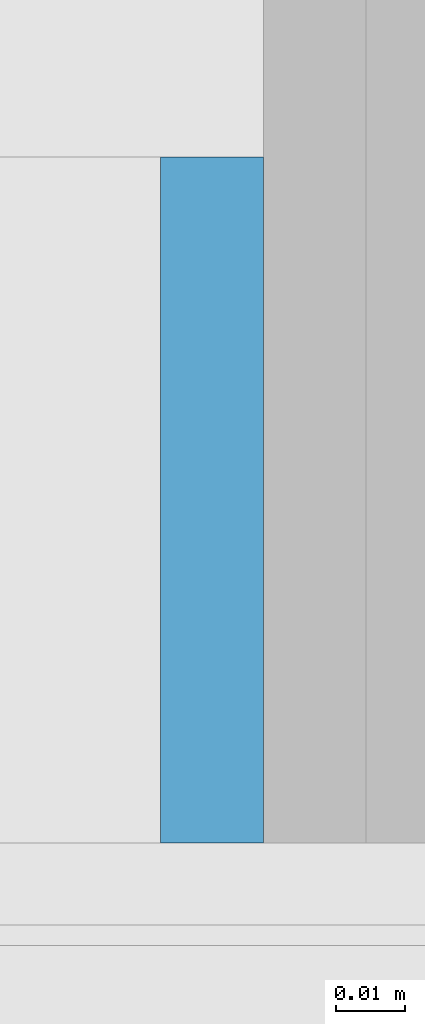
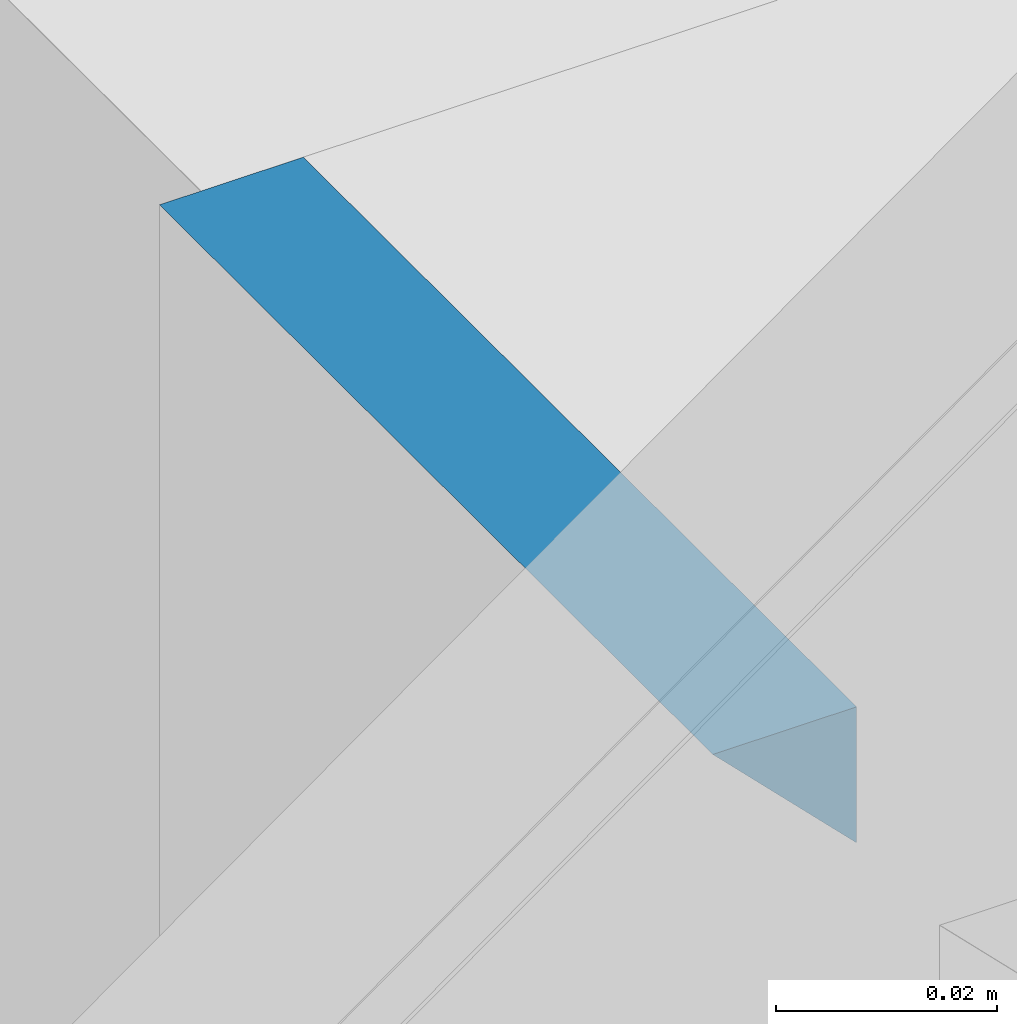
# One storey, part 29 of 583: 1 wall.
"""IFC2X3 building model written with IfcOpenShell, lengths in metres."""

from ifc_helpers import new_model, entity, si_unit, converted_unit, derived_unit, money_unit, direction, frame, origin_with_axes, place, context, subcontext, project, spatial, polyline, outline, extrude, material, type_object, element, save


model = new_model("IFC2X3")

# Units and contexts
model_context = context("Model", 3, precision=1e-05, world=origin_with_axes(), true_north=direction((0.0, 1.0)))
body_context = subcontext(model_context, "Body", "Model", "MODEL_VIEW", scale=1.0)
ifc_project = project(units=[si_unit("LENGTHUNIT", "METRE"), si_unit("AREAUNIT", "SQUARE_METRE"), si_unit("VOLUMEUNIT", "CUBIC_METRE"), si_unit("ABSORBEDDOSEUNIT", "GRAY"), si_unit("AMOUNTOFSUBSTANCEUNIT", "MOLE"), si_unit("DOSEEQUIVALENTUNIT", "SIEVERT"), si_unit("ELECTRICCAPACITANCEUNIT", "FARAD"), si_unit("ELECTRICCHARGEUNIT", "COULOMB"), si_unit("ELECTRICCONDUCTANCEUNIT", "SIEMENS"), si_unit("ELECTRICCURRENTUNIT", "AMPERE"), si_unit("ELECTRICRESISTANCEUNIT", "OHM"), si_unit("ELECTRICVOLTAGEUNIT", "VOLT"), si_unit("ENERGYUNIT", "JOULE"), si_unit("FORCEUNIT", "NEWTON"), si_unit("FREQUENCYUNIT", "HERTZ"), si_unit("ILLUMINANCEUNIT", "LUX"), si_unit("INDUCTANCEUNIT", "HENRY"), si_unit("LUMINOUSFLUXUNIT", "LUMEN"), si_unit("LUMINOUSINTENSITYUNIT", "CANDELA"), si_unit("MAGNETICFLUXDENSITYUNIT", "TESLA"), si_unit("MAGNETICFLUXUNIT", "WEBER"), si_unit("MASSUNIT", "GRAM"), converted_unit("PLANEANGLEUNIT", "degree", entity("IfcReal", 0.0174532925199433), si_unit("PLANEANGLEUNIT", "RADIAN"), dimensions=[0, 0, 0, 0, 0, 0, 0]), si_unit("POWERUNIT", "WATT"), si_unit("PRESSUREUNIT", "PASCAL"), si_unit("RADIOACTIVITYUNIT", "BECQUEREL"), si_unit("SOLIDANGLEUNIT", "STERADIAN"), si_unit("THERMODYNAMICTEMPERATUREUNIT", "KELVIN"), si_unit("TIMEUNIT", "SECOND"), derived_unit("ACCELERATIONUNIT", [(si_unit("LENGTHUNIT", "METRE"), 1), (si_unit("TIMEUNIT", "SECOND"), -2)]), derived_unit("ANGULARVELOCITYUNIT", [(converted_unit("PLANEANGLEUNIT", "degree", entity("IfcReal", 0.0174532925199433), si_unit("PLANEANGLEUNIT", "RADIAN"), dimensions=[0, 0, 0, 0, 0, 0, 0]), 1), (si_unit("TIMEUNIT", "SECOND"), -1)]), derived_unit("CURVATUREUNIT", [(converted_unit("PLANEANGLEUNIT", "degree", entity("IfcReal", 0.0174532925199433), si_unit("PLANEANGLEUNIT", "RADIAN"), dimensions=[0, 0, 0, 0, 0, 0, 0]), 1), (si_unit("LENGTHUNIT", "METRE"), -1)]), derived_unit("DYNAMICVISCOSITYUNIT", [(si_unit("PRESSUREUNIT", "PASCAL"), 1), (si_unit("TIMEUNIT", "SECOND"), 1)]), derived_unit("HEATFLUXDENSITYUNIT", [(si_unit("POWERUNIT", "WATT"), 1), (si_unit("LENGTHUNIT", "METRE"), -2)]), derived_unit("HEATINGVALUEUNIT", [(si_unit("ENERGYUNIT", "JOULE"), 1), (si_unit("MASSUNIT", "GRAM"), -1)]), derived_unit("INTEGERCOUNTRATEUNIT", [(si_unit("TIMEUNIT", "SECOND"), -1)]), derived_unit("IONCONCENTRATIONUNIT", [(si_unit("MASSUNIT", "GRAM"), 1), (si_unit("VOLUMEUNIT", "CUBIC_METRE"), -1)]), derived_unit("ISOTHERMALMOISTURECAPACITYUNIT", [(si_unit("VOLUMEUNIT", "CUBIC_METRE"), 1), (si_unit("MASSUNIT", "GRAM"), -1)]), derived_unit("KINEMATICVISCOSITYUNIT", [(si_unit("AREAUNIT", "SQUARE_METRE"), 1), (si_unit("TIMEUNIT", "SECOND"), -1)]), derived_unit("LINEARFORCEUNIT", [(si_unit("FORCEUNIT", "NEWTON"), 1), (si_unit("LENGTHUNIT", "METRE"), -1)]), derived_unit("LINEARMOMENTUNIT", [(si_unit("FORCEUNIT", "NEWTON"), 1), (si_unit("LENGTHUNIT", "METRE"), -1)]), derived_unit("LINEARSTIFFNESSUNIT", [(si_unit("FORCEUNIT", "NEWTON"), 1), (si_unit("LENGTHUNIT", "METRE"), -1)]), derived_unit("LINEARVELOCITYUNIT", [(si_unit("LENGTHUNIT", "METRE"), 1), (si_unit("TIMEUNIT", "SECOND"), -1)]), derived_unit("LUMINOUSINTENSITYDISTRIBUTIONUNIT", [(si_unit("LUMINOUSINTENSITYUNIT", "CANDELA"), 1), (si_unit("LUMINOUSFLUXUNIT", "LUMEN"), -1)]), derived_unit("MASSDENSITYUNIT", [(si_unit("MASSUNIT", "GRAM"), 1), (si_unit("VOLUMEUNIT", "CUBIC_METRE"), -1)]), derived_unit("MASSFLOWRATEUNIT", [(si_unit("MASSUNIT", "GRAM"), 1), (si_unit("TIMEUNIT", "SECOND"), -1)]), derived_unit("MASSPERLENGTHUNIT", [(si_unit("MASSUNIT", "GRAM"), 1), (si_unit("LENGTHUNIT", "METRE"), -1)]), derived_unit("MODULUSOFELASTICITYUNIT", [(si_unit("FORCEUNIT", "NEWTON"), 1), (si_unit("AREAUNIT", "SQUARE_METRE"), -1)]), derived_unit("MODULUSOFLINEARSUBGRADEREACTIONUNIT", [(si_unit("FORCEUNIT", "NEWTON"), 1), (si_unit("LENGTHUNIT", "METRE"), -2)]), derived_unit("MODULUSOFROTATIONALSUBGRADEREACTIONUNIT", [(si_unit("FORCEUNIT", "NEWTON"), 1), (si_unit("LENGTHUNIT", "METRE"), 1)]), derived_unit("MODULUSOFSUBGRADEREACTIONUNIT", [(si_unit("FORCEUNIT", "NEWTON"), 1), (si_unit("VOLUMEUNIT", "CUBIC_METRE"), -1)]), derived_unit("MOISTUREDIFFUSIVITYUNIT", [(si_unit("VOLUMEUNIT", "CUBIC_METRE"), 1), (si_unit("TIMEUNIT", "SECOND"), -1)]), derived_unit("MOLECULARWEIGHTUNIT", [(si_unit("MASSUNIT", "GRAM"), 1), (si_unit("AMOUNTOFSUBSTANCEUNIT", "MOLE"), -1)]), derived_unit("PLANARFORCEUNIT", [(si_unit("FORCEUNIT", "NEWTON"), 1), (si_unit("LENGTHUNIT", "METRE"), -2)]), derived_unit("ROTATIONALFREQUENCYUNIT", [(si_unit("TIMEUNIT", "SECOND"), -1)]), derived_unit("ROTATIONALMASSUNIT", [(si_unit("MASSUNIT", "GRAM"), 1), (si_unit("LENGTHUNIT", "METRE"), 2)]), derived_unit("ROTATIONALSTIFFNESSUNIT", [(si_unit("FORCEUNIT", "NEWTON"), 1), (si_unit("LENGTHUNIT", "METRE"), 1), (converted_unit("PLANEANGLEUNIT", "degree", entity("IfcReal", 0.0174532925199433), si_unit("PLANEANGLEUNIT", "RADIAN"), dimensions=[0, 0, 0, 0, 0, 0, 0]), -1)]), derived_unit("SECTIONAREAINTEGRALUNIT", [(si_unit("LENGTHUNIT", "METRE"), 5)]), derived_unit("SECTIONMODULUSUNIT", [(si_unit("LENGTHUNIT", "METRE"), 3)]), derived_unit("SHEARMODULUSUNIT", [(si_unit("FORCEUNIT", "NEWTON"), 1), (si_unit("AREAUNIT", "SQUARE_METRE"), -1)]), derived_unit("SOUNDPOWERUNIT", [(si_unit("ENERGYUNIT", "JOULE"), 1), (si_unit("TIMEUNIT", "SECOND"), -1)]), derived_unit("SPECIFICHEATCAPACITYUNIT", [(si_unit("FORCEUNIT", "NEWTON"), 1), (si_unit("MASSUNIT", "GRAM"), -1), (si_unit("THERMODYNAMICTEMPERATUREUNIT", "KELVIN"), -1)]), derived_unit("TEMPERATUREGRADIENTUNIT", [(si_unit("THERMODYNAMICTEMPERATUREUNIT", "KELVIN"), 1), (si_unit("LENGTHUNIT", "METRE"), -1)]), derived_unit("THERMALADMITTANCEUNIT", [(si_unit("POWERUNIT", "WATT"), 1), (si_unit("AREAUNIT", "SQUARE_METRE"), -1), (si_unit("THERMODYNAMICTEMPERATUREUNIT", "KELVIN"), -1)]), derived_unit("THERMALCONDUCTANCEUNIT", [(si_unit("POWERUNIT", "WATT"), 1), (si_unit("LENGTHUNIT", "METRE"), -1), (si_unit("THERMODYNAMICTEMPERATUREUNIT", "KELVIN"), -1)]), derived_unit("THERMALEXPANSIONCOEFFICIENTUNIT", [(si_unit("THERMODYNAMICTEMPERATUREUNIT", "KELVIN"), -1)]), derived_unit("THERMALRESISTANCEUNIT", [(si_unit("AREAUNIT", "SQUARE_METRE"), 1), (si_unit("POWERUNIT", "WATT"), -1)]), derived_unit("THERMALTRANSMITTANCEUNIT", [(si_unit("POWERUNIT", "WATT"), 1), (si_unit("AREAUNIT", "SQUARE_METRE"), -1), (si_unit("THERMODYNAMICTEMPERATUREUNIT", "KELVIN"), -1)]), derived_unit("TORQUEUNIT", [(si_unit("FORCEUNIT", "NEWTON"), 1), (si_unit("LENGTHUNIT", "METRE"), 1)]), derived_unit("VAPORPERMEABILITYUNIT", [(si_unit("MASSUNIT", "GRAM"), 1), (si_unit("TIMEUNIT", "SECOND"), -1)]), derived_unit("VOLUMETRICFLOWRATEUNIT", [(si_unit("VOLUMEUNIT", "CUBIC_METRE"), 1), (si_unit("TIMEUNIT", "SECOND"), -1)]), derived_unit("WARPINGCONSTANTUNIT", [(si_unit("LENGTHUNIT", "METRE"), 6)]), derived_unit("WARPINGMOMENTUNIT", [(si_unit("FORCEUNIT", "NEWTON"), 1), (si_unit("LENGTHUNIT", "METRE"), 2)]), money_unit("GBP")], contexts=[model_context])

# Site, building, storey
site_placement = place(None, origin_with_axes())
site = spatial("IfcSite", under=ifc_project, at=site_placement, Name="Site", CompositionType="ELEMENT")
building_placement = place(site_placement, origin_with_axes())
building = spatial("IfcBuilding", under=site, at=building_placement, Name="Building01", CompositionType="ELEMENT")
storey_placement = place(building_placement, frame((0.0, 0.0, 20.78), z_axis=(0.0, 0.0, 1.0), x_axis=(1.0, 0.0, 0.0)))
storey = spatial("IfcBuildingStorey", under=building, at=storey_placement, Name="RL", CompositionType="ELEMENT", Elevation=20.78)

# Wall
ifc_material = material(Name="A_BSUK_Walls_Timber")
wall_type = type_object("IfcWallType", Name="default", PredefinedType="NOTDEFINED")
wall_placement = place(storey_placement, frame((4.164443, 5.165, -5.93), z_axis=(0.0, 1.0, 0.0), x_axis=(1.0, 0.0, 0.0)))
element("IfcWall", 1, at=wall_placement, inside=storey, type_object=wall_type, material=ifc_material, Name="default", ObjectType="default", context=body_context, shape_type="SweptSolid", body=[
    extrude(outline(polyline([(-0.015015, -0.015), (0.0, -0.015), (0.0, 0.0), (-1.5e-05, 0.0), (-0.015015, -0.015)])), origin_with_axes(), (0.0, 0.0, 1.0), 0.1),
])

save(model, "model.ifc")
